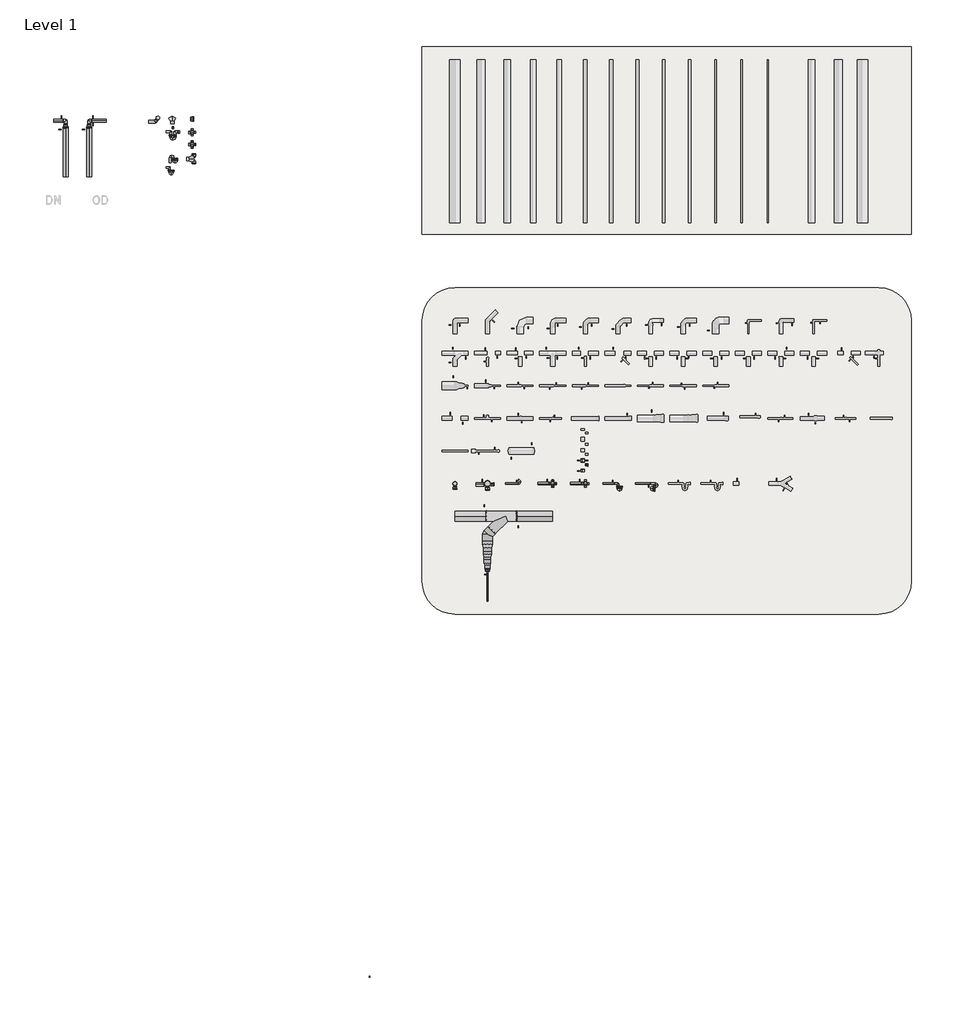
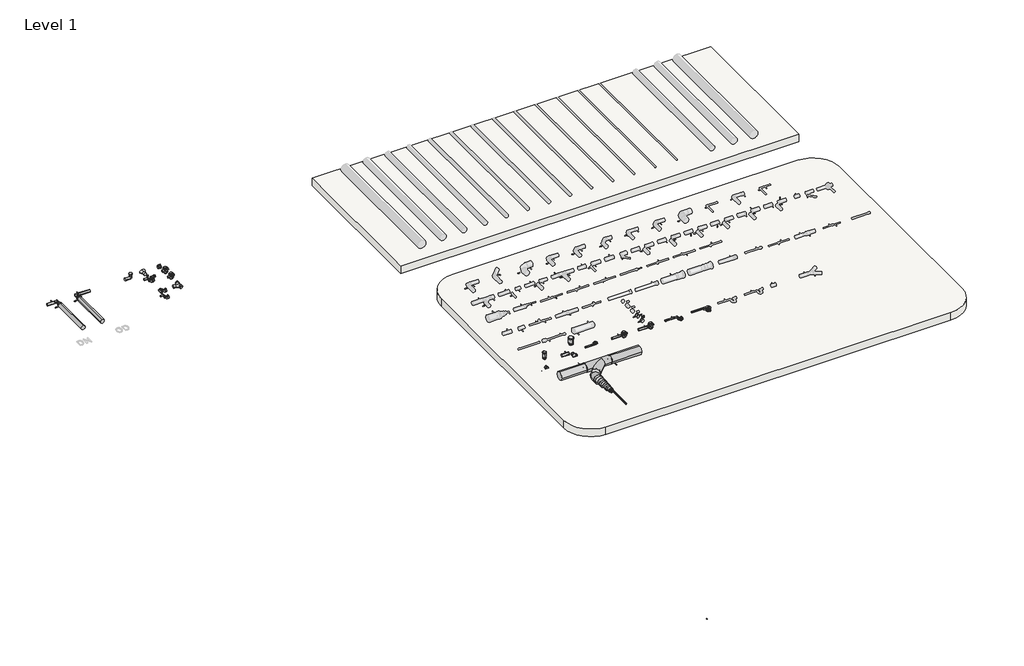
# One storey, part 1 of 6: 56 pipe fittings, 17 pipe segments, 2 slabs.
"""IFC4 building model written with IfcOpenShell, lengths in millimetres."""

from ifc_helpers import new_model, si_unit, point, frame, frame_2d, origin, place, context, project, spatial, polyline, circle_curve, trimmed, segment, composite_curve, outline, extrude, transform, mapped, element, save
from components import pipe_fitting_32baf9d8, s425650_57257eff, var_78c70b53, var_2668025b, var_42bbe541, var_01cf09ba, var_9c65db2d, var_89c93119, var_dcd50663, var_0cec4f12, var_a00c3a62, var_47216052, nested_do_not_use_f8d48da3, nested_do_not_use_7641d64b, nested_do_not_use_785704b3, nested_do_not_use_c7003eac, nested_do_not_use_269007d1, nested_do_not_use_b0c1b68e, nested_do_not_use_2af66b91, nested_do_not_use_17b874a4, nested_do_not_use_0499a160, nested_do_not_use_3065b1c8, nested_do_not_use_59c94e66, nested_do_not_use_9fcaccac, nested_do_not_use_1a4f5e9d, nested_do_not_use_88acbfcf, nested_do_not_use_821c716b, nested_do_not_use_ac7d642e, nested_do_not_use_4ca71223, welded_75b1cb19, welded_63566782, welded_6cbd62db, welded_96b689ca, welded_5e4001d0, welded_60098e8d, welded_158fee2e, welded_ac007b25

model = new_model("IFC4")

# Units and contexts
model_context = context("Model", 3, world=origin())
ifc_project = project(units=[si_unit("LENGTHUNIT", "METRE", prefix="MILLI")], contexts=[model_context])

# Site, building, storey
site = spatial("IfcSite", under=ifc_project)
building = spatial("IfcBuilding", under=site)
storey = spatial("IfcBuildingStorey", under=building, Name="Level 1", Elevation=0.0)

# Pipe fittings
placement = place(None, origin())
pipe_fitting_shape = pipe_fitting_32baf9d8(model_context)
element("IfcPipeFitting", 1, ObjectType="PIF_HDPE weld_Akatherm : ringseal or non-welded", at=placement, inside=storey, context=model_context, shape_type="MappedRepresentation", body=[
    mapped(pipe_fitting_shape, transform((0.0, 0.0, 0.0), x_axis=(1.0, 0.0, 0.0), y_axis=(0.0, -1.0, 0.0), z_axis=(0.0, 0.0, -1.0))),
])
s425650_shape = s425650_57257eff(model_context)
element("IfcPipeFitting", 2, ObjectType="PIF_HDPE PVCABS_ADAPTOR_MARLEY2 : S425650", at=placement, inside=storey, context=model_context, shape_type="MappedRepresentation", body=[
    mapped(s425650_shape, transform((6704.1831885, 15846.4844182, 200.0), x_axis=(-1.0, 0.0, 0.0), y_axis=(0.0, -1.0, 0.0), z_axis=(0.0, 0.0, 1.0))),
])
var_shape = var_78c70b53(model_context)
element("IfcPipeFitting", 3, ObjectType="PIF_HDPE floor lavatory socket_Akatherm : Var.", at=placement, inside=storey, context=model_context, shape_type="MappedRepresentation", body=[
    mapped(var_shape, transform((-5394.2200099, 26449.1102771, 0.0), x_axis=(1.0, 0.0, 0.0), y_axis=(0.0, 1.0, 0.0), z_axis=(0.0, 0.0, 1.0))),
])
var_2_shape = var_2668025b(model_context)
element("IfcPipeFitting", 4, ObjectType="PIF_HDPE bend 180_Akatherm : Var.", at=placement, inside=storey, context=model_context, shape_type="MappedRepresentation", body=[
    mapped(var_2_shape, transform((4659.9781064, 15273.6274824, 200.0), x_axis=(1.0, 0.0, 0.0), y_axis=(0.0, 1.0, 0.0), z_axis=(0.0, 0.0, 1.0))),
])
var_3_shape = var_42bbe541(model_context)
element("IfcPipeFitting", 5, ObjectType="PIF_HDPE floor gully pushfit_Akatherm : Var.", at=placement, inside=storey, context=model_context, shape_type="MappedRepresentation", body=[
    mapped(var_3_shape, transform((5659.9781064, 15273.6274824, 97.0), x_axis=(1.0, 0.0, 0.0), y_axis=(0.0, 1.0, 0.0), z_axis=(0.0, 0.0, 1.0))),
])
element("IfcPipeFitting", 6, ObjectType="PIF_HDPE floor gully pushfit_Akatherm : Var.", at=placement, inside=storey, context=model_context, shape_type="MappedRepresentation", body=[
    mapped(var_3_shape, transform((-5394.2200099, 25668.9360439, 0.0), x_axis=(1.0, 0.0, 0.0), y_axis=(0.0, 1.0, 0.0), z_axis=(0.0, 0.0, 1.0))),
])
var_4_shape = var_01cf09ba(model_context)
element("IfcPipeFitting", 7, ObjectType="PIF_HDPE floor gully weldable_Akatherm : Var.", at=placement, inside=storey, context=model_context, shape_type="MappedRepresentation", body=[
    mapped(var_4_shape, transform((6659.9781064, 15273.6274824, 97.0), x_axis=(1.0, 0.0, 0.0), y_axis=(0.0, 1.0, 0.0), z_axis=(0.0, 0.0, 1.0))),
])
element("IfcPipeFitting", 8, ObjectType="PIF_HDPE floor gully weldable_Akatherm : Var.", at=placement, inside=storey, context=model_context, shape_type="MappedRepresentation", body=[
    mapped(var_4_shape, transform((-5394.2200099, 26041.0833111, 0.0), x_axis=(1.0, 0.0, 0.0), y_axis=(0.0, 1.0, 0.0), z_axis=(0.0, 0.0, 1.0))),
])
var_5_shape = var_9c65db2d(model_context)
element("IfcPipeFitting", 9, ObjectType="PIF_HDPE p trap_Akatherm : Var.", at=placement, inside=storey, context=model_context, shape_type="MappedRepresentation", body=[
    mapped(var_5_shape, transform((7759.9781064, 15273.6274824, 200.0), x_axis=(1.0, 0.0, 0.0), y_axis=(0.0, 1.0, 0.0), z_axis=(0.0, 0.0, 1.0))),
])
element("IfcPipeFitting", 10, ObjectType="PIF_HDPE p trap_Akatherm : Var.", at=placement, inside=storey, context=model_context, shape_type="MappedRepresentation", body=[
    mapped(var_5_shape, transform((-5990.4101088, 24964.0057524, 0.0), x_axis=(1.0, 0.0, 0.0), y_axis=(0.0, 1.0, 0.0), z_axis=(0.0, 0.0, 1.0))),
])
var_6_shape = var_89c93119(model_context)
element("IfcPipeFitting", 11, ObjectType="PIF_HDPE s trap_Akatherm : Var.", at=placement, inside=storey, context=model_context, shape_type="MappedRepresentation", body=[
    mapped(var_6_shape, transform((8759.9781064, 15273.6274824, 200.0), x_axis=(1.0, 0.0, 0.0), y_axis=(0.0, -1.0000000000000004, 0.0), z_axis=(0.0, 0.0, -1.0000000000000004))),
])
element("IfcPipeFitting", 12, ObjectType="PIF_HDPE s trap_Akatherm : Var.", at=placement, inside=storey, context=model_context, shape_type="MappedRepresentation", body=[
    mapped(var_6_shape, transform((-6072.1329693, 25208.8821143, 0.0), x_axis=(0.0, 1.0, 0.0), y_axis=(1.0000000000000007, 0.0, 0.0), z_axis=(0.0, 0.0, -1.0000000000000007))),
])
var_7_shape = var_dcd50663(model_context)
element("IfcPipeFitting", 13, ObjectType="PIF_HDPE y branch_Akatherm : Var.", at=placement, inside=storey, context=model_context, shape_type="MappedRepresentation", body=[
    mapped(var_7_shape, transform((-6006.2789726, 26396.2206472, 0.0), x_axis=(0.0, 1.0000000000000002, 0.0), y_axis=(-1.0000000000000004, 0.0, 0.0), z_axis=(0.0, 0.0, 1.0000000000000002))),
])
var_8_shape = var_0cec4f12(model_context)
element("IfcPipeFitting", 14, ObjectType="PIF_HDPE wall lavatory bend angled_Akatherm : Var.", at=placement, inside=storey, context=model_context, shape_type="MappedRepresentation", body=[
    mapped(var_8_shape, transform((-6528.1116092, 26368.2308183, 0.0), x_axis=(1.0, 0.0, 0.0), y_axis=(0.0, 1.0, 0.0), z_axis=(0.0, 0.0, 1.0))),
])
var_9_shape = var_a00c3a62(model_context)
element("IfcPipeFitting", 15, ObjectType="PIF_HDPE u trap_Akatherm : Var.", at=placement, inside=storey, context=model_context, shape_type="MappedRepresentation", body=[
    mapped(var_9_shape, transform((-5990.4101088, 26052.3952652, 0.0), x_axis=(1.0, 0.0, 0.0), y_axis=(0.0, 1.0, 0.0), z_axis=(0.0, 0.0, 1.0))),
])
var_10_shape = var_47216052(model_context)
element("IfcPipeFitting", 16, ObjectType="PIF_HDPE double wall lavatory bend vertical_Akatherm : Var.", at=placement, inside=storey, context=model_context, shape_type="MappedRepresentation", body=[
    mapped(var_10_shape, transform((-5482.8230721, 25228.9112972, 0.0), x_axis=(1.0, 0.0, 0.0), y_axis=(0.0, 1.0, 0.0), z_axis=(0.0, 0.0, 1.0))),
])
nested_do_not_use_shape = nested_do_not_use_f8d48da3(model_context)
element("IfcPipeFitting", 17, ObjectType="ZZZ_do no use_PIF_HDPE reducer -SH_Akatherm : nested, do not use", at=placement, inside=storey, context=model_context, shape_type="MappedRepresentation", body=[
    mapped(nested_do_not_use_shape, transform((-9278.4772443, 26211.0206472, 0.0), x_axis=(0.0, 1.0, 0.0), y_axis=(-1.0, 0.0, 0.0), z_axis=(0.0, 0.0, 1.0))),
])
element("IfcPipeFitting", 18, ObjectType="ZZZ_do no use_PIF_HDPE reducer -SH_Akatherm : nested, do not use", at=placement, inside=storey, context=model_context, shape_type="MappedRepresentation", body=[
    mapped(nested_do_not_use_shape, transform((-8558.4772443, 26211.0206472, 0.0), x_axis=(0.0, 1.0, 0.0), y_axis=(-1.0, 0.0, 0.0), z_axis=(0.0, 0.0, 1.0))),
])
nested_do_not_use_2_shape = nested_do_not_use_7641d64b(model_context)
element("IfcPipeFitting", 19, ObjectType="ZZZ_do no use_PIF_HDPE elbow for bend assembly -SH_Akatherm : nested, do not use", at=placement, inside=storey, context=model_context, shape_type="MappedRepresentation", body=[
    mapped(nested_do_not_use_2_shape, transform((-9278.4772443, 26396.2206472, 0.0), x_axis=(0.0, 1.0, 0.0), y_axis=(-1.0, 0.0, 0.0), z_axis=(0.0, 0.0, 1.0))),
])
element("IfcPipeFitting", 20, ObjectType="ZZZ_do no use_PIF_HDPE elbow for bend assembly -SH_Akatherm : nested, do not use", at=placement, inside=storey, context=model_context, shape_type="MappedRepresentation", body=[
    mapped(nested_do_not_use_2_shape, transform((-8558.4772443, 26396.2206472, 0.0), x_axis=(-1.0, 0.0, 0.0), y_axis=(0.0, -1.0, 0.0), z_axis=(0.0, 0.0, 1.0))),
])
nested_do_not_use_3_shape = nested_do_not_use_785704b3(model_context)
element("IfcPipeFitting", 21, ObjectType="ZZZ_do no use_PIF_HDPE elbow for branch assembly -SH_Akatherm : nested, do not use", at=placement, inside=storey, context=model_context, shape_type="MappedRepresentation", body=[
    mapped(nested_do_not_use_3_shape, transform((3659.9781064, 13716.0030748, 200.0), x_axis=(0.0, 1.0, 0.0), y_axis=(-1.0, 0.0, 0.0), z_axis=(0.0, 0.0, 1.0))),
])
nested_do_not_use_4_shape = nested_do_not_use_c7003eac(model_context)
element("IfcPipeFitting", 22, ObjectType="ZZZ_do no use_PIF_HDPE equal branch -SH_Akatherm : nested, do not use", at=placement, inside=storey, context=model_context, shape_type="MappedRepresentation", body=[
    mapped(nested_do_not_use_4_shape, transform((4217.6025141, 14273.6274824, 200.0), x_axis=(-1.0, 0.0, 0.0), y_axis=(0.0, -1.0, 0.0), z_axis=(0.0, 0.0, 1.0))),
])
nested_do_not_use_5_shape = nested_do_not_use_269007d1(model_context)
element("IfcPipeFitting", 23, ObjectType="ZZZ_do no use_PIF_HDPE rubber sleeve -SH_Akatherm : nested, do not use", at=placement, inside=storey, context=model_context, shape_type="MappedRepresentation", body=[
    mapped(nested_do_not_use_5_shape, transform((-5979.4101088, 26180.4206472, 0.0), x_axis=(1.0, 0.0, 0.0), y_axis=(0.0, 1.0, 0.0), z_axis=(0.0, 0.0, 1.0))),
])
nested_do_not_use_6_shape = nested_do_not_use_b0c1b68e(model_context)
element("IfcPipeFitting", 24, ObjectType="ZZZ_do no use_PIF_HDPE reducer -SH_Akatherm : nested, do not use", at=placement, inside=storey, context=model_context, shape_type="MappedRepresentation", body=[
    mapped(nested_do_not_use_6_shape, transform((3659.9781064, 13368.1530748, 200.0), x_axis=(0.0, -1.0, 0.0), y_axis=(1.0, 0.0, 0.0), z_axis=(0.0, 0.0, 1.0))),
])
nested_do_not_use_7_shape = nested_do_not_use_2af66b91(model_context)
element("IfcPipeFitting", 25, ObjectType="ZZZ_do no use_PIF_HDPE reducer -SH_Akatherm : nested, do not use", at=placement, inside=storey, context=model_context, shape_type="MappedRepresentation", body=[
    mapped(nested_do_not_use_7_shape, transform((3659.9781064, 13067.3030748, 229.0), x_axis=(0.0, -1.0, 0.0), y_axis=(1.0, 0.0, 0.0), z_axis=(0.0, 0.0, 1.0))),
])
nested_do_not_use_8_shape = nested_do_not_use_17b874a4(model_context)
element("IfcPipeFitting", 26, ObjectType="ZZZ_do no use_PIF_HDPE reducer -SH_Akatherm : nested, do not use", at=placement, inside=storey, context=model_context, shape_type="MappedRepresentation", body=[
    mapped(nested_do_not_use_8_shape, transform((3659.9781064, 12803.7030748, 251.5), x_axis=(0.0, -1.0, 0.0), y_axis=(1.0, 0.0, 0.0), z_axis=(0.0, 0.0, 1.0))),
])
nested_do_not_use_9_shape = nested_do_not_use_0499a160(model_context)
element("IfcPipeFitting", 27, ObjectType="ZZZ_do no use_PIF_HDPE reducer -SH_Akatherm : nested, do not use", at=placement, inside=storey, context=model_context, shape_type="MappedRepresentation", body=[
    mapped(nested_do_not_use_9_shape, transform((3659.9781064, 12643.1030748, 269.0), x_axis=(0.0, -1.0, 0.0), y_axis=(1.0, 0.0, 0.0), z_axis=(0.0, 0.0, 1.0))),
])
nested_do_not_use_10_shape = nested_do_not_use_3065b1c8(model_context)
element("IfcPipeFitting", 28, ObjectType="ZZZ_do no use_PIF_HDPE reducer -SH_Akatherm : nested, do not use", at=placement, inside=storey, context=model_context, shape_type="MappedRepresentation", body=[
    mapped(nested_do_not_use_10_shape, transform((3659.9781064, 12570.5030748, 292.0), x_axis=(0.0, -1.0, 0.0), y_axis=(1.0, 0.0, 0.0), z_axis=(0.0, 0.0, 1.0))),
])
nested_do_not_use_11_shape = nested_do_not_use_59c94e66(model_context)
element("IfcPipeFitting", 29, ObjectType="ZZZ_do no use_PIF_HDPE reducer -SH_Akatherm : nested, do not use", at=placement, inside=storey, context=model_context, shape_type="MappedRepresentation", body=[
    mapped(nested_do_not_use_11_shape, transform((-9278.4772443, 26283.6206472, 0.0), x_axis=(0.0, 1.0, 0.0), y_axis=(-1.0, 0.0, 0.0), z_axis=(0.0, 0.0, 1.0))),
])
element("IfcPipeFitting", 30, ObjectType="ZZZ_do no use_PIF_HDPE reducer -SH_Akatherm : nested, do not use", at=placement, inside=storey, context=model_context, shape_type="MappedRepresentation", body=[
    mapped(nested_do_not_use_11_shape, transform((-8558.4772443, 26283.6206472, 0.0), x_axis=(0.0, 1.0, 0.0), y_axis=(-1.0, 0.0, 0.0), z_axis=(0.0, 0.0, 1.0))),
])
nested_do_not_use_12_shape = nested_do_not_use_9fcaccac(model_context)
element("IfcPipeFitting", 31, ObjectType="ZZZ_do no use_PIF_HDPE trap connecting socket -SH_Akatherm : nested, do not use", at=placement, inside=storey, context=model_context, shape_type="MappedRepresentation", body=[
    mapped(nested_do_not_use_12_shape, transform((-5990.4101088, 26180.4206472, 0.0), x_axis=(1.0, 0.0, 0.0), y_axis=(0.0, 1.0, 0.0), z_axis=(0.0, 0.0, 1.0))),
])
nested_do_not_use_13_shape = nested_do_not_use_1a4f5e9d(model_context)
element("IfcPipeFitting", 32, ObjectType="ZZZ_do no use_PIF_HDPE plugin socket -SH_Akatherm : nested, do not use", at=placement, inside=storey, context=model_context, shape_type="MappedRepresentation", body=[
    mapped(nested_do_not_use_13_shape, transform((2767.2781064, 15273.6274824, -170.0), x_axis=(1.0000000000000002, 0.0, 0.0), y_axis=(0.0, 0.0, 1.0), z_axis=(0.0, -1.0000000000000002, 0.0))),
])
element("IfcPipeFitting", 33, ObjectType="ZZZ_do no use_PIF_HDPE plugin socket -SH_Akatherm : nested, do not use", at=placement, inside=storey, context=model_context, shape_type="MappedRepresentation", body=[
    mapped(nested_do_not_use_13_shape, transform((3792.2781064, 15248.6274824, 30.0), x_axis=(1.0000000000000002, 0.0, 0.0), y_axis=(0.0, 0.0, 1.0), z_axis=(0.0, -1.0000000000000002, 0.0))),
])
nested_do_not_use_14_shape = nested_do_not_use_88acbfcf(model_context)
element("IfcPipeFitting", 34, ObjectType="ZZZ_do no use_PIF_HDPE expansion socket with anchor point -SH_Akatherm : nested, do not use", at=placement, inside=storey, context=model_context, shape_type="MappedRepresentation", body=[
    mapped(nested_do_not_use_14_shape, transform((3659.9781064, 15273.6274824, 562.0), x_axis=(0.0, 0.0, 1.0), y_axis=(0.0, 1.0000000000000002, 0.0), z_axis=(-1.0000000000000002, 0.0, 0.0))),
])
nested_do_not_use_15_shape = nested_do_not_use_821c716b(model_context)
element("IfcPipeFitting", 35, ObjectType="ZZZ_do no use_PIF_HDPE rubber seal -SH_Akatherm : nested, do not use", at=placement, inside=storey, context=model_context, shape_type="MappedRepresentation", body=[
    mapped(nested_do_not_use_15_shape, transform((-5350.2200099, 26449.1102771, 0.0), x_axis=(1.0, 0.0, 0.0), y_axis=(0.0, 1.0, 0.0), z_axis=(0.0, 0.0, 1.0))),
])
nested_do_not_use_16_shape = nested_do_not_use_ac7d642e(model_context)
element("IfcPipeFitting", 36, ObjectType="ZZZ_do no use_PIF_HDPE plugin socket -SH_Akatherm : nested, do not use", at=placement, inside=storey, context=model_context, shape_type="MappedRepresentation", body=[
    mapped(nested_do_not_use_16_shape, transform((2659.9781064, 15165.8274824, 0.0), x_axis=(0.0, -1.0000000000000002, 0.0), y_axis=(0.0, 0.0, 1.0), z_axis=(-1.0000000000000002, 0.0, 0.0))),
])
element("IfcPipeFitting", 37, ObjectType="ZZZ_do no use_PIF_HDPE plugin socket -SH_Akatherm : nested, do not use", at=placement, inside=storey, context=model_context, shape_type="MappedRepresentation", body=[
    mapped(nested_do_not_use_16_shape, transform((3659.9781064, 15140.8274824, 200.0), x_axis=(0.0, -1.0000000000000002, 0.0), y_axis=(0.0, 0.0, 1.0), z_axis=(-1.0000000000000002, 0.0, 0.0))),
])
nested_do_not_use_17_shape = nested_do_not_use_4ca71223(model_context)
element("IfcPipeFitting", 38, ObjectType="ZZZ_do no use_PIF_HDPE expansion socket with anchor point -SH_Akatherm : nested, do not use", at=placement, inside=storey, context=model_context, shape_type="MappedRepresentation", body=[
    mapped(nested_do_not_use_17_shape, transform((2659.9781064, 15273.6274824, 329.5), x_axis=(0.0, 0.0, 1.0), y_axis=(0.0, 1.0000000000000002, 0.0), z_axis=(-1.0000000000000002, 0.0, 0.0))),
])
welded_shape = welded_75b1cb19(model_context)
element("IfcPipeFitting", 39, ObjectType="PIF_HDPE weld_Akatherm : welded", at=placement, inside=storey, context=model_context, shape_type="MappedRepresentation", body=[
    mapped(welded_shape, transform((4606.6781064, 15273.6274824, 200.0), x_axis=(-1.0, 0.0, 0.0), y_axis=(0.0, -0.9982876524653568, 0.05849583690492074), z_axis=(0.0, 0.05849583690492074, 0.9982876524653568))),
])
element("IfcPipeFitting", 40, ObjectType="PIF_HDPE weld_Akatherm : welded", at=placement, inside=storey, context=model_context, shape_type="MappedRepresentation", body=[
    mapped(welded_shape, transform((7557.6781064, 15273.6274824, 200.0), x_axis=(-1.0, 0.0, 0.0), y_axis=(0.0, -1.0, 0.0), z_axis=(0.0, 0.0, 1.0))),
])
element("IfcPipeFitting", 41, ObjectType="PIF_HDPE weld_Akatherm : welded", at=placement, inside=storey, context=model_context, shape_type="MappedRepresentation", body=[
    mapped(welded_shape, transform((8655.1781064, 15273.6274824, 200.0), x_axis=(-1.0, 0.0, 0.0), y_axis=(0.0, 1.0, 0.0), z_axis=(0.0, 0.0, -1.0))),
])
welded_2_shape = welded_63566782(model_context)
element("IfcPipeFitting", 42, ObjectType="PIF_HDPE weld_Akatherm : welded", at=placement, inside=storey, context=model_context, shape_type="MappedRepresentation", body=[
    mapped(welded_2_shape, transform((3659.9781064, 12532.2030748, 325.0), x_axis=(0.0, -1.0, 0.0), y_axis=(1.0, 0.0, 0.0), z_axis=(0.0, 0.0, 1.0))),
])
welded_3_shape = welded_6cbd62db(model_context)
element("IfcPipeFitting", 43, ObjectType="PIF_HDPE weld_Akatherm : welded", at=placement, inside=storey, context=model_context, shape_type="MappedRepresentation", body=[
    mapped(welded_3_shape, transform((2572.1781064, 15273.6274824, -170.0), x_axis=(-1.0, 0.0, 0.0), y_axis=(0.0, -1.0, 0.0), z_axis=(0.0, 0.0, 1.0))),
])
element("IfcPipeFitting", 44, ObjectType="PIF_HDPE weld_Akatherm : welded", at=placement, inside=storey, context=model_context, shape_type="MappedRepresentation", body=[
    mapped(welded_3_shape, transform((2767.2781064, 15273.6274824, -170.0), x_axis=(1.0, 0.0, 0.0), y_axis=(0.0, -1.0, 0.0), z_axis=(0.0, 0.0, -1.0))),
])
element("IfcPipeFitting", 45, ObjectType="PIF_HDPE weld_Akatherm : welded", at=placement, inside=storey, context=model_context, shape_type="MappedRepresentation", body=[
    mapped(welded_3_shape, transform((5545.5781064, 15273.6274824, 200.0), x_axis=(-1.0, 0.0, 0.0), y_axis=(0.0, -1.0, 0.0), z_axis=(0.0, 0.0, 1.0))),
])
element("IfcPipeFitting", 46, ObjectType="PIF_HDPE weld_Akatherm : welded", at=placement, inside=storey, context=model_context, shape_type="MappedRepresentation", body=[
    mapped(welded_3_shape, transform((6545.5781064, 15273.6274824, 200.0), x_axis=(-1.0, 0.0, 0.0), y_axis=(0.0, -1.0, 0.0), z_axis=(0.0, 0.0, 1.0))),
])
welded_4_shape = welded_96b689ca(model_context)
element("IfcPipeFitting", 47, ObjectType="PIF_HDPE weld_Akatherm : welded", at=placement, inside=storey, context=model_context, shape_type="MappedRepresentation", body=[
    mapped(welded_4_shape, transform((3615.8025141, 14273.6274824, 200.0), x_axis=(-1.0, 0.0, 0.0), y_axis=(0.0, -1.0, 0.0), z_axis=(0.0, 0.0, 1.0))),
])
element("IfcPipeFitting", 48, ObjectType="PIF_HDPE weld_Akatherm : welded", at=placement, inside=storey, context=model_context, shape_type="MappedRepresentation", body=[
    mapped(welded_4_shape, transform((4549.4025141, 14273.6274824, 200.0), x_axis=(1.0, 0.0, 0.0), y_axis=(0.0, 1.0, 0.0), z_axis=(0.0, 0.0, 1.0))),
])
welded_5_shape = welded_5e4001d0(model_context)
element("IfcPipeFitting", 49, ObjectType="PIF_HDPE weld_Akatherm : welded", at=placement, inside=storey, context=model_context, shape_type="MappedRepresentation", body=[
    mapped(welded_5_shape, transform((-9354.7772443, 26396.2206472, 0.0), x_axis=(-1.0, 0.0, 0.0), y_axis=(0.0, -1.0, 0.0), z_axis=(0.0, 0.0, 1.0))),
])
element("IfcPipeFitting", 50, ObjectType="PIF_HDPE weld_Akatherm : welded", at=placement, inside=storey, context=model_context, shape_type="MappedRepresentation", body=[
    mapped(welded_5_shape, transform((-8482.1772443, 26396.2206472, 0.0), x_axis=(1.0, 0.0, 0.0), y_axis=(0.0, 1.0, 0.0), z_axis=(0.0, 0.0, 1.0))),
])
welded_6_shape = welded_60098e8d(model_context)
element("IfcPipeFitting", 51, ObjectType="PIF_HDPE weld_Akatherm : welded", at=placement, inside=storey, context=model_context, shape_type="MappedRepresentation", body=[
    mapped(welded_6_shape, transform((-9278.4772443, 26175.7206472, 0.0), x_axis=(0.0, -1.0, 0.0), y_axis=(1.0, 0.0, 0.0), z_axis=(0.0, 0.0, 1.0))),
])
element("IfcPipeFitting", 52, ObjectType="PIF_HDPE weld_Akatherm : welded", at=placement, inside=storey, context=model_context, shape_type="MappedRepresentation", body=[
    mapped(welded_6_shape, transform((-8558.4772443, 26175.7206472, 0.0), x_axis=(0.0, -1.0, 0.0), y_axis=(1.0, 0.0, 0.0), z_axis=(0.0, 0.0, 1.0))),
])
welded_7_shape = welded_158fee2e(model_context)
element("IfcPipeFitting", 53, ObjectType="PIF_HDPE weld_Akatherm : welded", at=placement, inside=storey, context=model_context, shape_type="MappedRepresentation", body=[
    mapped(welded_7_shape, transform((-8482.1772443, 26396.2206472, 0.0), x_axis=(1.0, 0.0, 0.0), y_axis=(0.0, 1.0, 0.0), z_axis=(0.0, 0.0, 1.0))),
])
welded_8_shape = welded_ac007b25(model_context)
element("IfcPipeFitting", 54, ObjectType="PIF_HDPE weld_Akatherm : welded", at=placement, inside=storey, context=model_context, shape_type="MappedRepresentation", body=[
    mapped(welded_8_shape, transform((3557.1781064, 15248.6274824, 200.0), x_axis=(-1.0, 0.0, 0.0), y_axis=(0.0, -1.0, 0.0), z_axis=(0.0, 0.0, 1.0))),
])
element("IfcPipeFitting", 55, ObjectType="PIF_HDPE weld_Akatherm : welded", at=placement, inside=storey, context=model_context, shape_type="MappedRepresentation", body=[
    mapped(welded_8_shape, transform((6577.6831885, 15711.4844182, 200.0), x_axis=(0.0, -1.0, 0.0), y_axis=(1.0, 0.0, 0.0), z_axis=(0.0, 0.0, 1.0))),
])
element("IfcPipeFitting", 56, ObjectType="PIF_HDPE weld_Akatherm : welded", at=placement, inside=storey, context=model_context, shape_type="MappedRepresentation", body=[
    mapped(welded_8_shape, transform((6577.6831885, 15936.4844182, 200.0), x_axis=(0.0, 1.0, 0.0), y_axis=(-1.0, 0.0, 0.0), z_axis=(0.0, 0.0, 1.0))),
])

# Pipe segments
element("IfcPipeSegment", 57, ObjectType="Akatherm HDPE (DN)", at=placement, inside=storey, context=model_context, shape_type="SweptSolid", body=[
    extrude(outline(composite_curve([segment(trimmed(circle_curve(frame_2d((15248.6274824, 200.0)), 55.0), [point((15303.6274824, 200.0))], [point((15248.6274824, 145.0))], False, "CARTESIAN"), True, "CONTINUOUS"), segment(trimmed(circle_curve(frame_2d((15248.6274824, 200.0)), 55.0), [point((15248.6274824, 145.0))], [point((15193.6274824, 200.0))], False, "CARTESIAN"), True, "CONTINUOUS"), segment(trimmed(circle_curve(frame_2d((15248.6274824, 200.0)), 55.0), [point((15193.6274824, 200.0))], [point((15248.6274824, 255.0))], False, "CARTESIAN"), True, "CONTINUOUS"), segment(trimmed(circle_curve(frame_2d((15248.6274824, 200.0)), 55.0), [point((15248.6274824, 255.0))], [point((15303.6274824, 200.0))], False, "CARTESIAN"), True, "CONTINUOUS")], self_intersect=False)), frame((3300.9781064, 0.0, 0.0), z_axis=(1.0, 0.0, 0.0), x_axis=(0.0, 1.0, 0.0)), (0.0, 0.0, 1.0), 259.9),
])
element("IfcPipeSegment", 58, ObjectType="Akatherm HDPE (DN)", at=placement, inside=storey, context=model_context, shape_type="SweptSolid", body=[
    extrude(outline(composite_curve([segment(trimmed(circle_curve(frame_2d((15273.6274824, -170.0)), 37.5), [point((15311.1274824, -170.0))], [point((15273.6274824, -207.5))], False, "CARTESIAN"), True, "CONTINUOUS"), segment(trimmed(circle_curve(frame_2d((15273.6274824, -170.0)), 37.5), [point((15273.6274824, -207.5))], [point((15236.1274824, -170.0))], False, "CARTESIAN"), True, "CONTINUOUS"), segment(trimmed(circle_curve(frame_2d((15273.6274824, -170.0)), 37.5), [point((15236.1274824, -170.0))], [point((15273.6274824, -132.5))], False, "CARTESIAN"), True, "CONTINUOUS"), segment(trimmed(circle_curve(frame_2d((15273.6274824, -170.0)), 37.5), [point((15273.6274824, -132.5))], [point((15311.1274824, -170.0))], False, "CARTESIAN"), True, "CONTINUOUS")], self_intersect=False)), frame((2259.9781064, 0.0, 0.0), z_axis=(1.0, 0.0, 0.0), x_axis=(0.0, 1.0, 0.0)), (0.0, 0.0, 1.0), 314.7),
])
element("IfcPipeSegment", 59, ObjectType="Akatherm HDPE (DN)", at=placement, inside=storey, context=model_context, shape_type="SweptSolid", body=[
    extrude(outline(composite_curve([segment(trimmed(circle_curve(frame_2d((15273.6274824, -170.0)), 37.5), [point((15236.1274824, -170.0))], [point((15273.6274824, -132.5))], False, "CARTESIAN"), True, "CONTINUOUS"), segment(trimmed(circle_curve(frame_2d((15273.6274824, -170.0)), 37.5), [point((15273.6274824, -132.5))], [point((15311.1274824, -170.0))], False, "CARTESIAN"), True, "CONTINUOUS"), segment(trimmed(circle_curve(frame_2d((15273.6274824, -170.0)), 37.5), [point((15311.1274824, -170.0))], [point((15273.6274824, -207.5))], False, "CARTESIAN"), True, "CONTINUOUS"), segment(trimmed(circle_curve(frame_2d((15273.6274824, -170.0)), 37.5), [point((15273.6274824, -207.5))], [point((15236.1274824, -170.0))], False, "CARTESIAN"), True, "CONTINUOUS")], self_intersect=False)), frame((2764.7781064, 0.0, 0.0), z_axis=(1.0, 0.0, 0.0), x_axis=(0.0, 1.0, 0.0)), (0.0, 0.0, 1.0), 295.2),
])
element("IfcPipeSegment", 60, ObjectType="Akatherm HDPE (DN)", at=placement, inside=storey, context=model_context, shape_type="SweptSolid", body=[
    extrude(outline(composite_curve([segment(trimmed(circle_curve(frame_2d((15273.6274824, 200.0)), 25.0), [point((15298.6274824, 200.0))], [point((15273.6274824, 175.0))], False, "CARTESIAN"), True, "CONTINUOUS"), segment(trimmed(circle_curve(frame_2d((15273.6274824, 200.0)), 25.0), [point((15273.6274824, 175.0))], [point((15248.6274824, 200.0))], False, "CARTESIAN"), True, "CONTINUOUS"), segment(trimmed(circle_curve(frame_2d((15273.6274824, 200.0)), 25.0), [point((15248.6274824, 200.0))], [point((15273.6274824, 225.0))], False, "CARTESIAN"), True, "CONTINUOUS"), segment(trimmed(circle_curve(frame_2d((15273.6274824, 200.0)), 25.0), [point((15273.6274824, 225.0))], [point((15298.6274824, 200.0))], False, "CARTESIAN"), True, "CONTINUOUS")], self_intersect=False)), frame((4204.9781064, 0.0, 0.0), z_axis=(1.0, 0.0, 0.0), x_axis=(0.0, 1.0, 0.0)), (0.0, 0.0, 1.0), 403.4),
])
element("IfcPipeSegment", 61, ObjectType="Akatherm HDPE (DN)", at=placement, inside=storey, context=model_context, shape_type="SweptSolid", body=[
    extrude(outline(composite_curve([segment(trimmed(circle_curve(frame_2d((15273.6274824, 200.0)), 37.5), [point((15311.1274824, 200.0))], [point((15273.6274824, 162.5))], False, "CARTESIAN"), True, "CONTINUOUS"), segment(trimmed(circle_curve(frame_2d((15273.6274824, 200.0)), 37.5), [point((15273.6274824, 162.5))], [point((15236.1274824, 200.0))], False, "CARTESIAN"), True, "CONTINUOUS"), segment(trimmed(circle_curve(frame_2d((15273.6274824, 200.0)), 37.5), [point((15236.1274824, 200.0))], [point((15273.6274824, 237.5))], False, "CARTESIAN"), True, "CONTINUOUS"), segment(trimmed(circle_curve(frame_2d((15273.6274824, 200.0)), 37.5), [point((15273.6274824, 237.5))], [point((15311.1274824, 200.0))], False, "CARTESIAN"), True, "CONTINUOUS")], self_intersect=False)), frame((5204.9781064, 0.0, 0.0), z_axis=(1.0, 0.0, 0.0), x_axis=(0.0, 1.0, 0.0)), (0.0, 0.0, 1.0), 343.1),
])
element("IfcPipeSegment", 62, ObjectType="Akatherm HDPE (DN)", at=placement, inside=storey, context=model_context, shape_type="SweptSolid", body=[
    extrude(outline(composite_curve([segment(trimmed(circle_curve(frame_2d((15273.6274824, 200.0)), 37.5), [point((15311.1274824, 200.0))], [point((15273.6274824, 162.5))], False, "CARTESIAN"), True, "CONTINUOUS"), segment(trimmed(circle_curve(frame_2d((15273.6274824, 200.0)), 37.5), [point((15273.6274824, 162.5))], [point((15236.1274824, 200.0))], False, "CARTESIAN"), True, "CONTINUOUS"), segment(trimmed(circle_curve(frame_2d((15273.6274824, 200.0)), 37.5), [point((15236.1274824, 200.0))], [point((15273.6274824, 237.5))], False, "CARTESIAN"), True, "CONTINUOUS"), segment(trimmed(circle_curve(frame_2d((15273.6274824, 200.0)), 37.5), [point((15273.6274824, 237.5))], [point((15311.1274824, 200.0))], False, "CARTESIAN"), True, "CONTINUOUS")], self_intersect=False)), frame((6204.9781064, 0.0, 0.0), z_axis=(1.0, 0.0, 0.0), x_axis=(0.0, 1.0, 0.0)), (0.0, 0.0, 1.0), 343.1),
])
element("IfcPipeSegment", 63, ObjectType="Akatherm HDPE (DN)", at=placement, inside=storey, context=model_context, shape_type="SweptSolid", body=[
    extrude(outline(composite_curve([segment(trimmed(circle_curve(frame_2d((15273.6274824, 200.0)), 25.0), [point((15298.6274824, 200.0))], [point((15273.6274824, 175.0))], False, "CARTESIAN"), True, "CONTINUOUS"), segment(trimmed(circle_curve(frame_2d((15273.6274824, 200.0)), 25.0), [point((15273.6274824, 175.0))], [point((15248.6274824, 200.0))], False, "CARTESIAN"), True, "CONTINUOUS"), segment(trimmed(circle_curve(frame_2d((15273.6274824, 200.0)), 25.0), [point((15248.6274824, 200.0))], [point((15273.6274824, 225.0))], False, "CARTESIAN"), True, "CONTINUOUS"), segment(trimmed(circle_curve(frame_2d((15273.6274824, 200.0)), 25.0), [point((15273.6274824, 225.0))], [point((15298.6274824, 200.0))], False, "CARTESIAN"), True, "CONTINUOUS")], self_intersect=False)), frame((7204.9781064, 0.0, 0.0), z_axis=(1.0, 0.0, 0.0), x_axis=(0.0, 1.0, 0.0)), (0.0, 0.0, 1.0), 354.4),
])
element("IfcPipeSegment", 64, ObjectType="Akatherm HDPE (DN)", at=placement, inside=storey, context=model_context, shape_type="SweptSolid", body=[
    extrude(outline(composite_curve([segment(trimmed(circle_curve(frame_2d((15273.6274824, 200.0)), 25.0), [point((15298.6274824, 200.0))], [point((15273.6274824, 175.0))], False, "CARTESIAN"), True, "CONTINUOUS"), segment(trimmed(circle_curve(frame_2d((15273.6274824, 200.0)), 25.0), [point((15273.6274824, 175.0))], [point((15248.6274824, 200.0))], False, "CARTESIAN"), True, "CONTINUOUS"), segment(trimmed(circle_curve(frame_2d((15273.6274824, 200.0)), 25.0), [point((15248.6274824, 200.0))], [point((15273.6274824, 225.0))], False, "CARTESIAN"), True, "CONTINUOUS"), segment(trimmed(circle_curve(frame_2d((15273.6274824, 200.0)), 25.0), [point((15273.6274824, 225.0))], [point((15298.6274824, 200.0))], False, "CARTESIAN"), True, "CONTINUOUS")], self_intersect=False)), frame((8204.9781064, 0.0, 0.0), z_axis=(1.0, 0.0, 0.0), x_axis=(0.0, 1.0, 0.0)), (0.0, 0.0, 1.0), 451.9),
])
element("IfcPipeSegment", 65, ObjectType="Akatherm HDPE (DN)", at=placement, inside=storey, context=model_context, shape_type="SweptSolid", body=[
    extrude(outline(composite_curve([segment(trimmed(circle_curve(frame_2d((325.0, 3659.9781064)), 20.0), [point((325.0, 3639.9781064))], [point((305.0, 3659.9781064))], False, "CARTESIAN"), True, "CONTINUOUS"), segment(trimmed(circle_curve(frame_2d((325.0, 3659.9781064)), 20.0), [point((305.0, 3659.9781064))], [point((325.0, 3679.9781064))], False, "CARTESIAN"), True, "CONTINUOUS"), segment(trimmed(circle_curve(frame_2d((325.0, 3659.9781064)), 20.0), [point((325.0, 3679.9781064))], [point((345.0, 3659.9781064))], False, "CARTESIAN"), True, "CONTINUOUS"), segment(trimmed(circle_curve(frame_2d((325.0, 3659.9781064)), 20.0), [point((345.0, 3659.9781064))], [point((325.0, 3639.9781064))], False, "CARTESIAN"), True, "CONTINUOUS")], self_intersect=False)), frame((0.0, 11673.6274824, 0.0), z_axis=(0.0, 1.0, 0.0), x_axis=(0.0, 0.0, 1.0)), (0.0, 0.0, 1.0), 860.2755924),
])
element("IfcPipeSegment", 66, ObjectType="Akatherm HDPE (DN)", at=placement, inside=storey, context=model_context, shape_type="SweptSolid", body=[
    extrude(outline(composite_curve([segment(trimmed(circle_curve(frame_2d((14273.6274824, 200.0)), 157.5), [point((14116.1274824, 200.0))], [point((14273.6274824, 357.5))], False, "CARTESIAN"), True, "CONTINUOUS"), segment(trimmed(circle_curve(frame_2d((14273.6274824, 200.0)), 157.5), [point((14273.6274824, 357.5))], [point((14431.1274824, 200.0))], False, "CARTESIAN"), True, "CONTINUOUS"), segment(trimmed(circle_curve(frame_2d((14273.6274824, 200.0)), 157.5), [point((14431.1274824, 200.0))], [point((14273.6274824, 42.5))], False, "CARTESIAN"), True, "CONTINUOUS"), segment(trimmed(circle_curve(frame_2d((14273.6274824, 200.0)), 157.5), [point((14273.6274824, 42.5))], [point((14116.1274824, 200.0))], False, "CARTESIAN"), True, "CONTINUOUS")], self_intersect=False)), frame((4541.2025141, 0.0, 0.0), z_axis=(1.0, 0.0, 0.0), x_axis=(0.0, 1.0, 0.0)), (0.0, 0.0, 1.0), 1118.7755924),
])
element("IfcPipeSegment", 67, ObjectType="Akatherm HDPE (DN)", at=placement, inside=storey, context=model_context, shape_type="SweptSolid", body=[
    extrude(outline(composite_curve([segment(trimmed(circle_curve(frame_2d((14273.6274824, 200.0)), 157.5), [point((14431.1274824, 200.0))], [point((14273.6274824, 42.5))], False, "CARTESIAN"), True, "CONTINUOUS"), segment(trimmed(circle_curve(frame_2d((14273.6274824, 200.0)), 157.5), [point((14273.6274824, 42.5))], [point((14116.1274824, 200.0))], False, "CARTESIAN"), True, "CONTINUOUS"), segment(trimmed(circle_curve(frame_2d((14273.6274824, 200.0)), 157.5), [point((14116.1274824, 200.0))], [point((14273.6274824, 357.5))], False, "CARTESIAN"), True, "CONTINUOUS"), segment(trimmed(circle_curve(frame_2d((14273.6274824, 200.0)), 157.5), [point((14273.6274824, 357.5))], [point((14431.1274824, 200.0))], False, "CARTESIAN"), True, "CONTINUOUS")], self_intersect=False)), frame((2659.9781064, 0.0, 0.0), z_axis=(1.0, 0.0, 0.0), x_axis=(0.0, 1.0, 0.0)), (0.0, 0.0, 1.0), 964.0244076),
])
element("IfcPipeSegment", 68, ObjectType="Akatherm HDPE (DN)", at=placement, inside=storey, context=model_context, shape_type="SweptSolid", body=[
    extrude(outline(composite_curve([segment(trimmed(circle_curve(frame_2d((0.0, -9278.4772443)), 80.0), [point((0.0, -9358.4772443))], [point((-80.0, -9278.4772443))], False, "CARTESIAN"), True, "CONTINUOUS"), segment(trimmed(circle_curve(frame_2d((0.0, -9278.4772443)), 80.0), [point((-80.0, -9278.4772443))], [point((0.0, -9198.4772443))], False, "CARTESIAN"), True, "CONTINUOUS"), segment(trimmed(circle_curve(frame_2d((0.0, -9278.4772443)), 80.0), [point((0.0, -9198.4772443))], [point((80.0, -9278.4772443))], False, "CARTESIAN"), True, "CONTINUOUS"), segment(trimmed(circle_curve(frame_2d((0.0, -9278.4772443)), 80.0), [point((80.0, -9278.4772443))], [point((0.0, -9358.4772443))], False, "CARTESIAN"), True, "CONTINUOUS")], self_intersect=False)), frame((0.0, 24680.4206472, 0.0), z_axis=(0.0, 1.0, 0.0), x_axis=(0.0, 0.0, 1.0)), (0.0, 0.0, 1.0), 1500.0),
])
element("IfcPipeSegment", 69, ObjectType="Akatherm HDPE (DN)", at=placement, inside=storey, context=model_context, shape_type="SweptSolid", body=[
    extrude(outline(composite_curve([segment(trimmed(circle_curve(frame_2d((26396.2206472, 0.0)), 45.0), [point((26441.2206472, 0.0))], [point((26396.2206472, -45.0))], False, "CARTESIAN"), True, "CONTINUOUS"), segment(trimmed(circle_curve(frame_2d((26396.2206472, 0.0)), 45.0), [point((26396.2206472, -45.0))], [point((26351.2206472, 0.0))], False, "CARTESIAN"), True, "CONTINUOUS"), segment(trimmed(circle_curve(frame_2d((26396.2206472, 0.0)), 45.0), [point((26351.2206472, 0.0))], [point((26396.2206472, 45.0))], False, "CARTESIAN"), True, "CONTINUOUS"), segment(trimmed(circle_curve(frame_2d((26396.2206472, 0.0)), 45.0), [point((26396.2206472, 45.0))], [point((26441.2206472, 0.0))], False, "CARTESIAN"), True, "CONTINUOUS")], self_intersect=False)), frame((-9638.4772443, 0.0, 0.0), z_axis=(1.0, 0.0, 0.0), x_axis=(0.0, 1.0, 0.0)), (0.0, 0.0, 1.0), 287.4),
])
element("IfcPipeSegment", 70, ObjectType="Akatherm HDPE (OD)", at=placement, inside=storey, context=model_context, shape_type="SweptSolid", body=[
    extrude(outline(composite_curve([segment(trimmed(circle_curve(frame_2d((0.0, -8558.4772443)), 80.0), [point((0.0, -8638.4772443))], [point((-80.0, -8558.4772443))], False, "CARTESIAN"), True, "CONTINUOUS"), segment(trimmed(circle_curve(frame_2d((0.0, -8558.4772443)), 80.0), [point((-80.0, -8558.4772443))], [point((0.0, -8478.4772443))], False, "CARTESIAN"), True, "CONTINUOUS"), segment(trimmed(circle_curve(frame_2d((0.0, -8558.4772443)), 80.0), [point((0.0, -8478.4772443))], [point((80.0, -8558.4772443))], False, "CARTESIAN"), True, "CONTINUOUS"), segment(trimmed(circle_curve(frame_2d((0.0, -8558.4772443)), 80.0), [point((80.0, -8558.4772443))], [point((0.0, -8638.4772443))], False, "CARTESIAN"), True, "CONTINUOUS")], self_intersect=False)), frame((0.0, 24680.4206472, 0.0), z_axis=(0.0, 1.0, 0.0), x_axis=(0.0, 0.0, 1.0)), (0.0, 0.0, 1.0), 1500.0),
])
element("IfcPipeSegment", 71, ObjectType="Akatherm HDPE (OD)", at=placement, inside=storey, context=model_context, shape_type="SweptSolid", body=[
    extrude(outline(composite_curve([segment(trimmed(circle_curve(frame_2d((26396.2206472, 0.0)), 45.0), [point((26351.2206472, 0.0))], [point((26396.2206472, 45.0))], False, "CARTESIAN"), True, "CONTINUOUS"), segment(trimmed(circle_curve(frame_2d((26396.2206472, 0.0)), 45.0), [point((26396.2206472, 45.0))], [point((26441.2206472, 0.0))], False, "CARTESIAN"), True, "CONTINUOUS"), segment(trimmed(circle_curve(frame_2d((26396.2206472, 0.0)), 45.0), [point((26441.2206472, 0.0))], [point((26396.2206472, -45.0))], False, "CARTESIAN"), True, "CONTINUOUS"), segment(trimmed(circle_curve(frame_2d((26396.2206472, 0.0)), 45.0), [point((26396.2206472, -45.0))], [point((26351.2206472, 0.0))], False, "CARTESIAN"), True, "CONTINUOUS")], self_intersect=False)), frame((-8485.8772443, 0.0, 0.0), z_axis=(1.0, 0.0, 0.0), x_axis=(0.0, 1.0, 0.0)), (0.0, 0.0, 1.0), 447.4),
])
element("IfcPipeSegment", 72, ObjectType="Akatherm HDPE (DN)", at=placement, inside=storey, context=model_context, shape_type="SweptSolid", body=[
    extrude(outline(composite_curve([segment(trimmed(circle_curve(frame_2d((200.0, 6577.6831885)), 55.0), [point((200.0, 6522.6831885))], [point((145.0, 6577.6831885))], False, "CARTESIAN"), True, "CONTINUOUS"), segment(trimmed(circle_curve(frame_2d((200.0, 6577.6831885)), 55.0), [point((145.0, 6577.6831885))], [point((200.0, 6632.6831885))], False, "CARTESIAN"), True, "CONTINUOUS"), segment(trimmed(circle_curve(frame_2d((200.0, 6577.6831885)), 55.0), [point((200.0, 6632.6831885))], [point((255.0, 6577.6831885))], False, "CARTESIAN"), True, "CONTINUOUS"), segment(trimmed(circle_curve(frame_2d((200.0, 6577.6831885)), 55.0), [point((255.0, 6577.6831885))], [point((200.0, 6522.6831885))], False, "CARTESIAN"), True, "CONTINUOUS")], self_intersect=False)), frame((0.0, 15632.7288732, 0.0), z_axis=(0.0, 1.0, 0.0), x_axis=(0.0, 0.0, 1.0)), (0.0, 0.0, 1.0), 82.455545),
])
element("IfcPipeSegment", 73, ObjectType="Akatherm HDPE (DN)", at=placement, inside=storey, context=model_context, shape_type="SweptSolid", body=[
    extrude(outline(composite_curve([segment(trimmed(circle_curve(frame_2d((200.0, 6577.6831885)), 55.0), [point((200.0, 6632.6831885))], [point((255.0, 6577.6831885))], False, "CARTESIAN"), True, "CONTINUOUS"), segment(trimmed(circle_curve(frame_2d((200.0, 6577.6831885)), 55.0), [point((255.0, 6577.6831885))], [point((200.0, 6522.6831885))], False, "CARTESIAN"), True, "CONTINUOUS"), segment(trimmed(circle_curve(frame_2d((200.0, 6577.6831885)), 55.0), [point((200.0, 6522.6831885))], [point((145.0, 6577.6831885))], False, "CARTESIAN"), True, "CONTINUOUS"), segment(trimmed(circle_curve(frame_2d((200.0, 6577.6831885)), 55.0), [point((145.0, 6577.6831885))], [point((200.0, 6632.6831885))], False, "CARTESIAN"), True, "CONTINUOUS")], self_intersect=False)), frame((0.0, 15932.7844182, 0.0), z_axis=(0.0, 1.0, 0.0), x_axis=(0.0, 0.0, 1.0)), (0.0, 0.0, 1.0), 105.5242973),
])

# Slabs
element("IfcSlab", 74, ObjectType="Floor 1", at=placement, inside=storey, context=model_context, shape_type="SweptSolid", body=[
    extrude(outline(composite_curve([segment(trimmed(circle_curve(frame_2d((15659.9781064, 20273.6274824)), 1000.0), [point((15659.9781064, 21273.6274824))], [point((16659.9781064, 20273.6274824))], False, "CARTESIAN"), True, "CONTINUOUS"), segment(polyline([(16659.9781064, 20273.6274824), (16659.9781064, 12273.6274824)]), True, "CONTINUOUS"), segment(trimmed(circle_curve(frame_2d((15659.9781064, 12273.6274824)), 1000.0), [point((16659.9781064, 12273.6274824))], [point((15659.9781064, 11273.6274824))], False, "CARTESIAN"), True, "CONTINUOUS"), segment(polyline([(15659.9781064, 11273.6274824), (2659.9781064, 11273.6274824)]), True, "CONTINUOUS"), segment(trimmed(circle_curve(frame_2d((2659.9781064, 12273.6274824)), 1000.0), [point((2659.9781064, 11273.6274824))], [point((1659.9781064, 12273.6274824))], False, "CARTESIAN"), True, "CONTINUOUS"), segment(polyline([(1659.9781064, 12273.6274824), (1659.9781064, 20273.6274824)]), True, "CONTINUOUS"), segment(trimmed(circle_curve(frame_2d((2659.9781064, 20273.6274824)), 1000.0), [point((1659.9781064, 20273.6274824))], [point((2659.9781064, 21273.6274824))], False, "CARTESIAN"), True, "CONTINUOUS"), segment(polyline([(2659.9781064, 21273.6274824), (15659.9781064, 21273.6274824)]), True, "CONTINUOUS")], self_intersect=False)), frame((0.0, 0.0, -300.0), z_axis=(0.0, 0.0, 1.0), x_axis=(1.0, 0.0, 0.0)), (0.0, 0.0, 1.0), 300.0),
])
element("IfcSlab", 75, ObjectType="Floor 1", at=placement, inside=storey, context=model_context, shape_type="SweptSolid", body=[
    extrude(outline(polyline([(16659.9781064, 22918.2547053), (1659.9781064, 22918.2547053), (1659.9781064, 28670.8474375), (16659.9781064, 28670.8474375), (16659.9781064, 22918.2547053)])), frame((0.0, 0.0, -600.0), z_axis=(0.0, 0.0, 1.0), x_axis=(1.0, 0.0, 0.0)), (0.0, 0.0, 1.0), 300.0),
])

save(model, "model.ifc")
